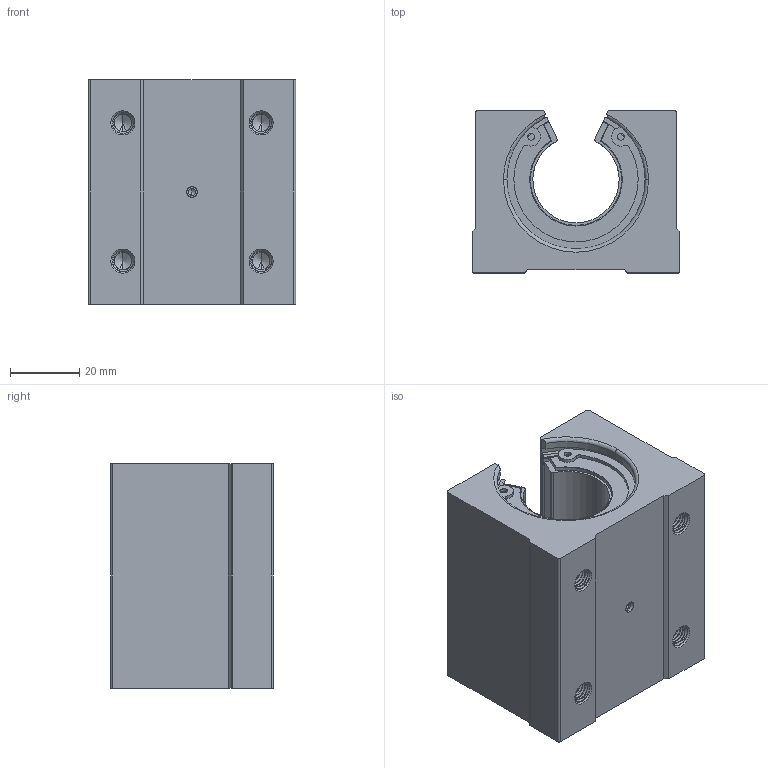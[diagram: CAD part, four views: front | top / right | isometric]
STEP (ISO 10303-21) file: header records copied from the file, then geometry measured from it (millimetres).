
FILE_DESCRIPTION (( 'STEP AP214' ), '1' );
FILE_NAME ('SBR25UU.STEP', '2026-10-19T08:14:18', ( '' ), ( '' ), 'SwSTEP 2.0', 'SolidWorks 2022', '' );
FILE_SCHEMA (( 'AUTOMOTIVE_DESIGN' ));
Length unit declared in the file: millimetre
Products named in the file (6): SBR25UU-01; SBR25UU-03; SBR25UU-04; SBR25UU; SBR25UU-02; SBR25UU-05
Assembly tree (7 placements, depth 2):
  SBR25UU
    SBR25UU-01
    SBR25UU-02
    SBR25UU-03
    SBR25UU-04  x2
    SBR25UU-05  x2
Bounding box: 60 x 47 x 65 mm (x, y, z)
Volume: 128383.8 mm3; surface area: 51445.1 mm2
Topology: 8 solids, 8 shells, 355 faces, 965 edges, 625 vertices
Faces by surface type: cylinder 220, plane 79, cone 26, bspline 24, torus 6
Entity records: 21084 total; most frequent: CARTESIAN_POINT 13153, ORIENTED_EDGE 1724, DIRECTION 1439, EDGE_CURVE 862, VERTEX_POINT 563, AXIS2_PLACEMENT_3D 529, LINE 381, VECTOR 381
